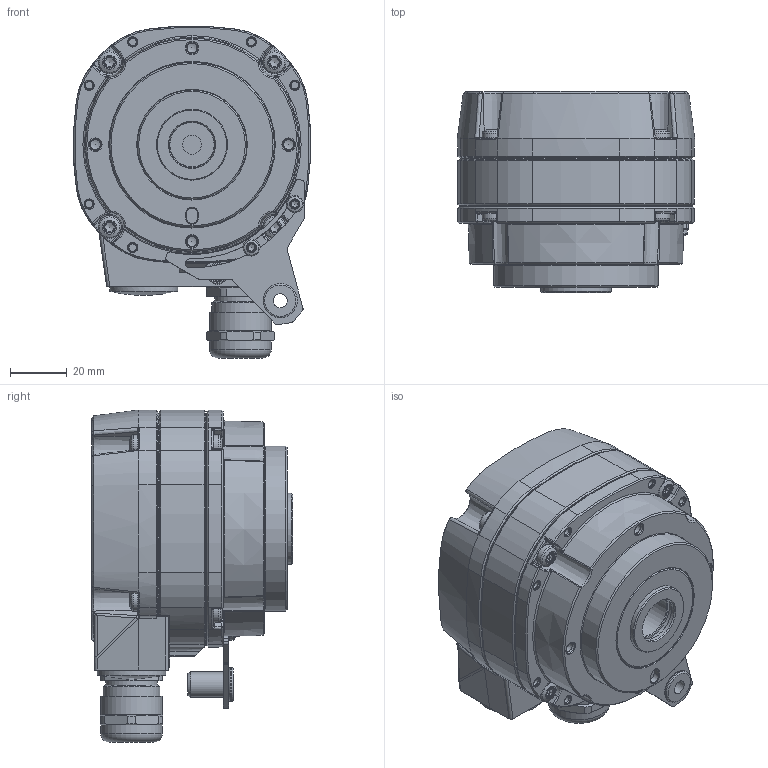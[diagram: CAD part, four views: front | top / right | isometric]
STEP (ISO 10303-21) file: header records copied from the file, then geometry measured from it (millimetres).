
FILE_DESCRIPTION(/* description */ ('Unknown'),/* implementation_level */ '2;1');
FILE_NAME(/* name */ 'HOG860 Endwelle 1x Kabelverschraubung 1x USB 8 Klemmen',/* time_stamp */ '2024-07-22T15:17:55+02:00',/* author */ ('Unknown'),/* organization */ ('Baumer'),/* preprocessor_version */ 'ST-DEVELOPER v16.7',/* originating_system */ 'Solid Edge',/* authorisation */ 'Unknown');
FILE_SCHEMA (('AUTOMOTIVE_DESIGN {1 0 10303 214 3 1 1}'));
Products named in the file (1): HOG860 Endwelle 1x Kabelverschraubung 1x USB 8 Klemmen
Bounding box: 83.47 x 70.95 x 116.73 mm (x, y, z)
Volume: 369959.6 mm3; surface area: 43892.1 mm2
Topology: 1 solids, 1 shells, 1560 faces, 4202 edges, 2687 vertices
Faces by surface type: plane 440, cylinder 334, bspline 322, cone 256, torus 176, sphere 32
Full cylindrical faces by diameter (mm): 2.68 x2, 3.3 x1, 4.2 x3, 4.917 x1, 6 x2, 6.647 x1, 8 x8, 8.9 x1, 9 x1, 10.947 x1, 11 x1, 12 x1, 16 x2, 18 x1, 18.2 x1, 20 x1, 21.7 x2, 24 x1, 24.95 x1, 38.5 x1, 58 x1
Entity records: 82509 total; most frequent: CARTESIAN_POINT 37447, ORIENTED_EDGE 7682, DIRECTION 6009, EDGE_CURVE 3841, VERTEX_POINT 2595, AXIS2_PLACEMENT_3D 2338, FACE_BOUND 1856, EDGE_LOOP 1843
